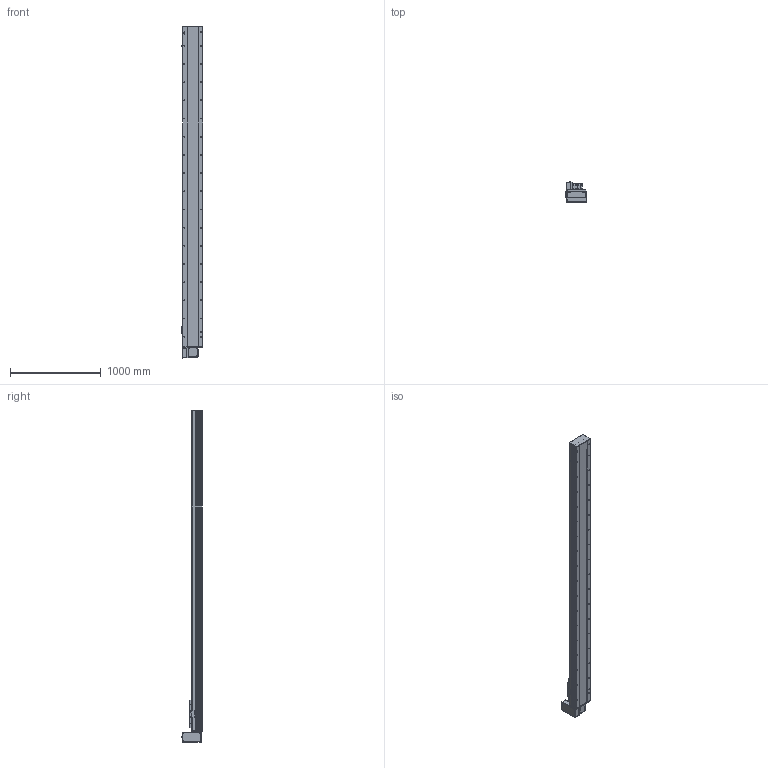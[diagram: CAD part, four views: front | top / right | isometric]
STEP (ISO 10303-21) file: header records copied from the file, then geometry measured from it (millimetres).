
FILE_DESCRIPTION (( 'STEP AP214' ), '1' );
FILE_NAME ('TPE22-L40-3100-RU-T75-C4.STEP', '2023-04-13T01:48:23', ( '' ), ( '' ), 'SwSTEP 2.0', 'SolidWorks 2020', '' );
FILE_SCHEMA (( 'AUTOMOTIVE_DESIGN' ));
Length unit declared in the file: millimetre
Products named in the file (10): 葩璃 TPE22-L-001 菁釱MZ-220-01^TPE22-L40-RU-T75-C4; 葩璃 詩湍150^TPE22-L40-RU-T75-C4; TPE22-L40-3100-RU-T75-C4; 葩璃 MSMD08PC_P75^TPE22-L40-RU-T75-C4; 葩璃 TPE22-L-007 々湍釱^TPE22-L40-RU-T75-C4; 葩璃 pm-t65-672^TPE22-L40-RU-T75-C4; hexagon head bolts-full thread gb_GB_FASTENER_BOLT_STBAB A M5X16-N; 葩璃 TPE22-L-002 耜裔ZTMZ-220-04^TPE22-L40-RU-T75-C4; 葩璃 TPT22-L-009 萇儂啣^TPE22-L40-RU-T75-C4; 葩璃 TPE22 賑雄殤^TPE22-L40-RU-T75-C4
Assembly tree (12 placements, depth 2):
  TPE22-L40-3100-RU-T75-C4
    葩璃 TPE22-L-001 菁釱MZ-220-01^TPE22-L40-RU-T75-C4
    葩璃 TPE22-L-002 耜裔ZTMZ-220-04^TPE22-L40-RU-T75-C4  x2
    葩璃 詩湍150^TPE22-L40-RU-T75-C4
    葩璃 TPE22-L-007 々湍釱^TPE22-L40-RU-T75-C4
    葩璃 TPT22-L-009 萇儂啣^TPE22-L40-RU-T75-C4
    葩璃 TPE22 賑雄殤^TPE22-L40-RU-T75-C4
    葩璃 pm-t65-672^TPE22-L40-RU-T75-C4  x3
    葩璃 MSMD08PC_P75^TPE22-L40-RU-T75-C4
    hexagon head bolts-full thread gb_GB_FASTENER_BOLT_STBAB A M5X16-N
Bounding box: 233.7 x 223.65 x 3652 mm (x, y, z)
Volume: 40029617.1 mm3; surface area: 5558785.5 mm2
Topology: 22 solids, 22 shells, 1829 faces, 4799 edges, 3035 vertices
Faces by surface type: plane 1039, cylinder 612, cone 148, bspline 30
Entity records: 51926 total; most frequent: CARTESIAN_POINT 10577, DIRECTION 8170, ORIENTED_EDGE 8006, EDGE_CURVE 4003, AXIS2_PLACEMENT_3D 2733, LINE 2704, VECTOR 2704, VERTEX_POINT 2579
